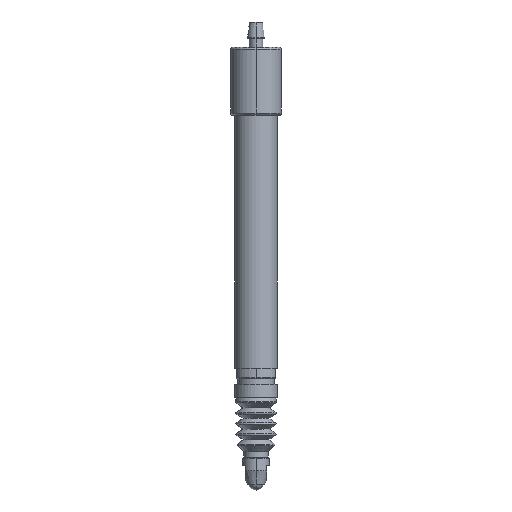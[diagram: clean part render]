
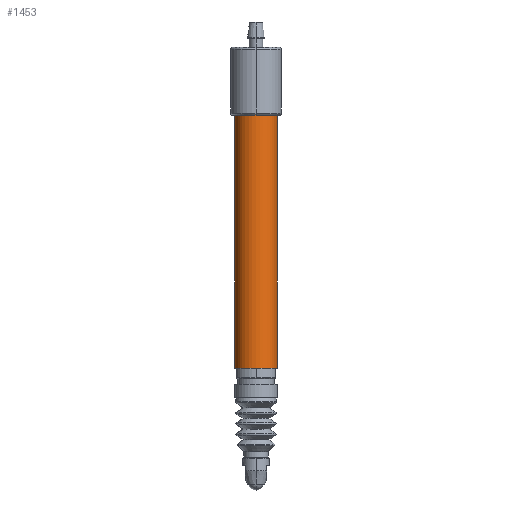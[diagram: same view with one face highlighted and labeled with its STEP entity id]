
A CAD part, front view. The second image highlights one B-rep face of the part: STEP entity #1453.
In plain terms, the highlighted cylindrical face has radius 4 mm (diameter 8 mm), a partial arc.
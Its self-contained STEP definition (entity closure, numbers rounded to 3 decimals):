
#129 = FACE_OUTER_BOUND ( 'NONE', #10073, .T. ) ;
#148 = ORIENTED_EDGE ( 'NONE', *, *, #3181, .F. ) ;
#262 = LINE ( 'NONE', #11245, #2627 ) ;
#361 = AXIS2_PLACEMENT_3D ( 'NONE', #8733, #8440, #8394 ) ;
#961 = VERTEX_POINT ( 'NONE', #7982 ) ;
#1049 = AXIS2_PLACEMENT_3D ( 'NONE', #10996, #10946, #10558 ) ;
#1453 = ADVANCED_FACE ( 'NONE', ( #129 ), #3663, .T. ) ;
#1840 = CIRCLE ( 'NONE', #1049, 4. ) ;
#2627 = VECTOR ( 'NONE', #11346, 1000. ) ;
#3139 = VERTEX_POINT ( 'NONE', #6850 ) ;
#3146 = VECTOR ( 'NONE', #9682, 1000. ) ;
#3181 = EDGE_CURVE ( 'NONE', #10060, #11710, #3430, .T. ) ;
#3356 = EDGE_CURVE ( 'NONE', #10060, #961, #4515, .T. ) ;
#3430 = LINE ( 'NONE', #4832, #3146 ) ;
#3451 = CARTESIAN_POINT ( 'NONE',  ( 2.297, 0.347, 43.2 ) ) ;
#3663 = CYLINDRICAL_SURFACE ( 'NONE', #6742, 4. ) ;
#3718 = VECTOR ( 'NONE', #4694, 1000. ) ;
#4020 = EDGE_CURVE ( 'NONE', #9498, #5510, #1840, .T. ) ;
#4064 = VERTEX_POINT ( 'NONE', #8154 ) ;
#4477 = CARTESIAN_POINT ( 'NONE',  ( -5.703, 0.347, 47.2 ) ) ;
#4511 = EDGE_CURVE ( 'NONE', #961, #4064, #6662, .T. ) ;
#4515 = CIRCLE ( 'NONE', #361, 4. ) ;
#4524 = ORIENTED_EDGE ( 'NONE', *, *, #5124, .T. ) ;
#4694 = DIRECTION ( 'NONE',  ( 0., 0., 1. ) ) ;
#4832 = CARTESIAN_POINT ( 'NONE',  ( 2.297, 0.347, 47.2 ) ) ;
#4979 = DIRECTION ( 'NONE',  ( 0., 0., -1. ) ) ;
#5083 = CARTESIAN_POINT ( 'NONE',  ( 2.047, -1.045, 47.2 ) ) ;
#5124 = EDGE_CURVE ( 'NONE', #3139, #9498, #262, .T. ) ;
#5482 = EDGE_CURVE ( 'NONE', #3139, #4064, #8447, .T. ) ;
#5510 = VERTEX_POINT ( 'NONE', #8777 ) ;
#5600 = ORIENTED_EDGE ( 'NONE', *, *, #3356, .T. ) ;
#5807 = AXIS2_PLACEMENT_3D ( 'NONE', #10462, #10440, #10411 ) ;
#6236 = ORIENTED_EDGE ( 'NONE', *, *, #12633, .T. ) ;
#6662 = LINE ( 'NONE', #5083, #3718 ) ;
#6742 = AXIS2_PLACEMENT_3D ( 'NONE', #8848, #8728, #10682 ) ;
#6850 = CARTESIAN_POINT ( 'NONE',  ( -5.453, -1.045, 45.2 ) ) ;
#7223 = EDGE_CURVE ( 'NONE', #7485, #11710, #9905, .T. ) ;
#7234 = CARTESIAN_POINT ( 'NONE',  ( -5.703, 0.347, -9.6 ) ) ;
#7485 = VERTEX_POINT ( 'NONE', #7234 ) ;
#7818 = CARTESIAN_POINT ( 'NONE',  ( 2.297, 0.347, -9.6 ) ) ;
#7982 = CARTESIAN_POINT ( 'NONE',  ( 2.047, -1.045, 43.2 ) ) ;
#8154 = CARTESIAN_POINT ( 'NONE',  ( 2.047, -1.045, 45.2 ) ) ;
#8279 = ORIENTED_EDGE ( 'NONE', *, *, #4020, .T. ) ;
#8394 = DIRECTION ( 'NONE',  ( -1., 0., 0. ) ) ;
#8440 = DIRECTION ( 'NONE',  ( 0., 0., -1. ) ) ;
#8447 = CIRCLE ( 'NONE', #8900, 4. ) ;
#8725 = VECTOR ( 'NONE', #4979, 1000. ) ;
#8728 = DIRECTION ( 'NONE',  ( 0., 0., -1. ) ) ;
#8733 = CARTESIAN_POINT ( 'NONE',  ( -1.703, 0.347, 43.2 ) ) ;
#8777 = CARTESIAN_POINT ( 'NONE',  ( -5.703, 0.347, 43.2 ) ) ;
#8779 = DIRECTION ( 'NONE',  ( 1., 0., 0. ) ) ;
#8791 = DIRECTION ( 'NONE',  ( 0., 0., 1. ) ) ;
#8815 = CARTESIAN_POINT ( 'NONE',  ( -1.703, 0.347, 45.2 ) ) ;
#8848 = CARTESIAN_POINT ( 'NONE',  ( -1.703, 0.347, 47.2 ) ) ;
#8900 = AXIS2_PLACEMENT_3D ( 'NONE', #8815, #8791, #8779 ) ;
#9032 = LINE ( 'NONE', #4477, #8725 ) ;
#9498 = VERTEX_POINT ( 'NONE', #11044 ) ;
#9682 = DIRECTION ( 'NONE',  ( 0., 0., -1. ) ) ;
#9905 = CIRCLE ( 'NONE', #5807, 4. ) ;
#10060 = VERTEX_POINT ( 'NONE', #3451 ) ;
#10073 = EDGE_LOOP ( 'NONE', ( #148, #5600, #11414, #10764, #4524, #8279, #6236, #12340 ) ) ;
#10411 = DIRECTION ( 'NONE',  ( 1., 0., 0. ) ) ;
#10440 = DIRECTION ( 'NONE',  ( 0., 0., 1. ) ) ;
#10462 = CARTESIAN_POINT ( 'NONE',  ( -1.703, 0.347, -9.6 ) ) ;
#10558 = DIRECTION ( 'NONE',  ( -1., 0., 0. ) ) ;
#10682 = DIRECTION ( 'NONE',  ( -1., 0., 0. ) ) ;
#10764 = ORIENTED_EDGE ( 'NONE', *, *, #5482, .F. ) ;
#10946 = DIRECTION ( 'NONE',  ( 0., 0., -1. ) ) ;
#10996 = CARTESIAN_POINT ( 'NONE',  ( -1.703, 0.347, 43.2 ) ) ;
#11044 = CARTESIAN_POINT ( 'NONE',  ( -5.453, -1.045, 43.2 ) ) ;
#11245 = CARTESIAN_POINT ( 'NONE',  ( -5.453, -1.045, 47.2 ) ) ;
#11346 = DIRECTION ( 'NONE',  ( 0., 0., -1. ) ) ;
#11414 = ORIENTED_EDGE ( 'NONE', *, *, #4511, .T. ) ;
#11710 = VERTEX_POINT ( 'NONE', #7818 ) ;
#12340 = ORIENTED_EDGE ( 'NONE', *, *, #7223, .T. ) ;
#12633 = EDGE_CURVE ( 'NONE', #5510, #7485, #9032, .T. ) ;
